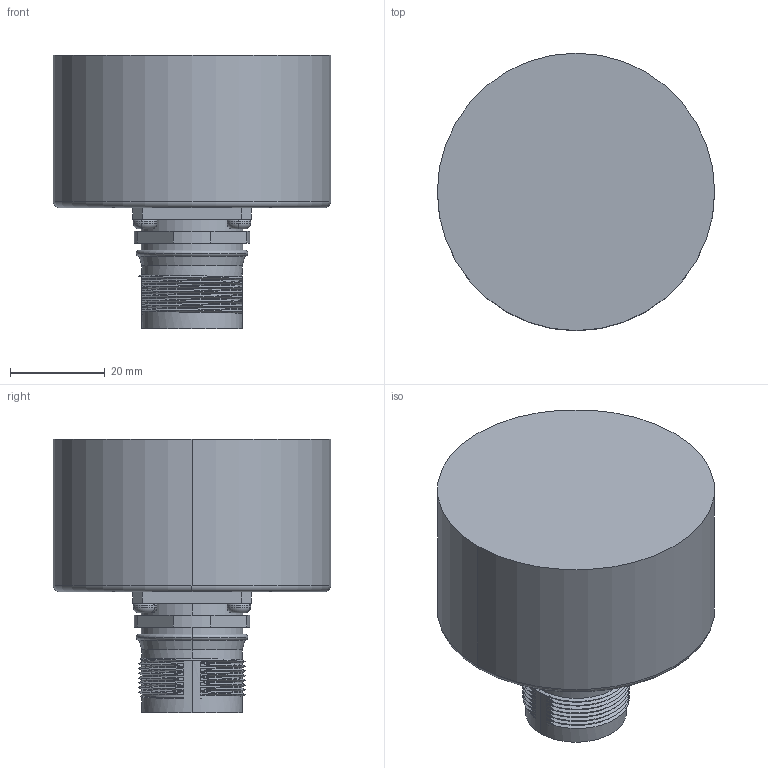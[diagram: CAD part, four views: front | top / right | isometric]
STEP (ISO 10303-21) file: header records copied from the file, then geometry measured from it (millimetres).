
FILE_DESCRIPTION (( 'STEP AP214' ), '1' );
FILE_NAME ('drawing-mc-5-ca-322-sws-z1bnnn-n-pap-n.STEP', '2018-05-22T09:54:26', ( '' ), ( '' ), 'SwSTEP 2.0', 'SolidWorks 2017', '' );
FILE_SCHEMA (( 'AUTOMOTIVE_DESIGN' ));
Length unit declared in the file: millimetre
Products named in the file (1): drawing-mc-5-ca-322-sws-z1bnnn-n-pap-n
Bounding box: 58.6 x 58.6 x 57.8 mm (x, y, z)
Volume: 17222.1 mm3; surface area: 26466 mm2
Topology: 10 solids, 10 shells, 786 faces, 2039 edges, 1317 vertices
Faces by surface type: plane 286, bspline 173, cylinder 141, cone 98, torus 56, sphere 32
Entity records: 46579 total; most frequent: CARTESIAN_POINT 19953, ORIENTED_EDGE 3934, DIRECTION 3312, EDGE_CURVE 1967, VERTEX_POINT 1285, AXIS2_PLACEMENT_3D 1226, EDGE_LOOP 894, VECTOR 860
